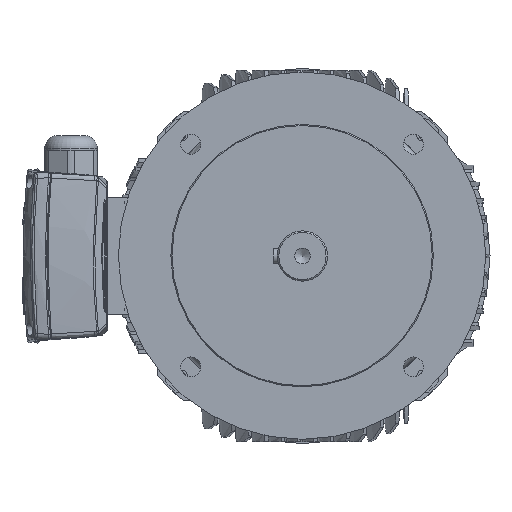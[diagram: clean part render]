
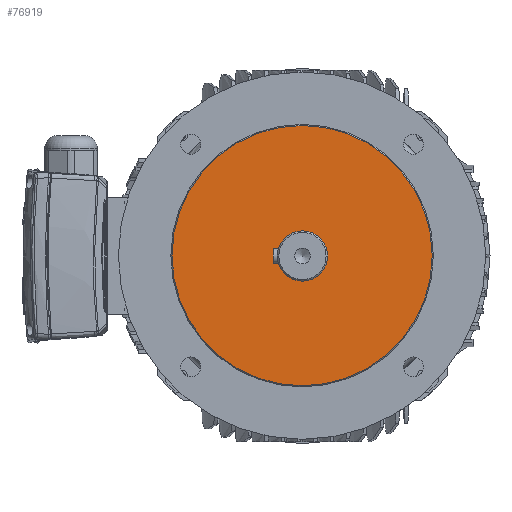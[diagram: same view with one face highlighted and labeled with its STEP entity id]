
A CAD part, left-side view. The second image highlights one B-rep face of the part: STEP entity #76919.
In plain terms, the highlighted planar face has unit normal (-1, 0, 0) as drawn and (0, 0, 1) by its records, which use the part's own axes.
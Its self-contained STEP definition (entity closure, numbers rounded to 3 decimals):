
#76885=CARTESIAN_POINT('',(-124.0,0.0,27.0));
#76886=VERTEX_POINT('',#76885);
#76887=CARTESIAN_POINT('',(0.0,0.0,27.0));
#76888=DIRECTION('',(0.0,0.0,1.0));
#76889=DIRECTION('',(1.0,0.0,0.0));
#76890=AXIS2_PLACEMENT_3D('',#76887,#76888,#76889);
#76891=CIRCLE('',#76890,124.0);
#76892=EDGE_CURVE('',#76886,#76886,#76891,.T.);
#76900=CARTESIAN_POINT('',(0.0,115.0,27.0));
#76901=DIRECTION('',(0.0,0.0,-1.0));
#76902=DIRECTION('',(-1.0,0.0,0.0));
#76903=AXIS2_PLACEMENT_3D('',#76900,#76901,#76902);
#76904=PLANE('',#76903);
#76905=ORIENTED_EDGE('',*,*,#76892,.T.);
#76906=EDGE_LOOP('',(#76905));
#76907=FACE_OUTER_BOUND('',#76906,.T.);
#76908=CARTESIAN_POINT('',(0.354,-24.354,27.0));
#76909=VERTEX_POINT('',#76908);
#76910=CARTESIAN_POINT('',(0.354,-0.354,27.0));
#76911=DIRECTION('',(0.0,0.0,1.0));
#76912=DIRECTION('',(0.0,1.0,0.0));
#76913=AXIS2_PLACEMENT_3D('',#76910,#76911,#76912);
#76914=CIRCLE('',#76913,24.);
#76915=EDGE_CURVE('',#76909,#76909,#76914,.T.);
#76916=ORIENTED_EDGE('',*,*,#76915,.F.);
#76917=EDGE_LOOP('',(#76916));
#76918=FACE_BOUND('',#76917,.T.);
#76919=ADVANCED_FACE('',(#76907,#76918),#76904,.F.);
